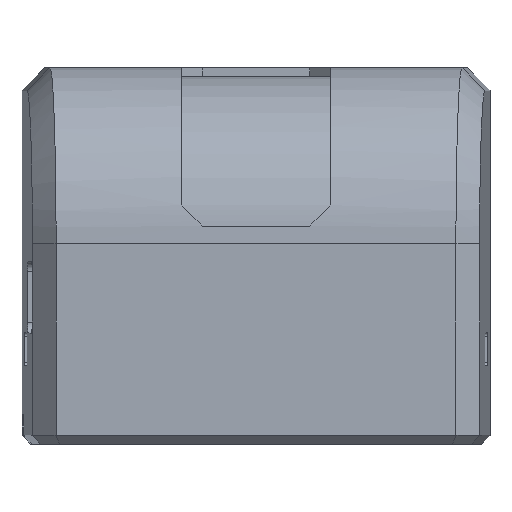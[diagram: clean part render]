
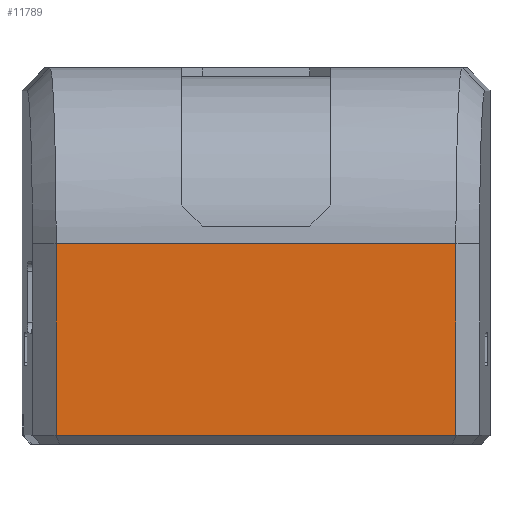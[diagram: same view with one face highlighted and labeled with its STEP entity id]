
A CAD part, front view. The second image highlights one B-rep face of the part: STEP entity #11789.
In plain terms, the highlighted planar face has unit normal (0, -1, 0).
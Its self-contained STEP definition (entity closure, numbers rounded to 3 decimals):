
#1239 = B_SPLINE_SURFACE_WITH_KNOTS('',1,1,(
    (#1240,#1241)
    ,(#1242,#1243
    )),.UNSPECIFIED.,.F.,.F.,.F.,(2,2),(2,2),(0.,22.729),(0.,1.),
  .PIECEWISE_BEZIER_KNOTS.);
#1240 = CARTESIAN_POINT('',(11.158,-29.29,7.49));
#1241 = CARTESIAN_POINT('',(11.364,-29.8,8.));
#1242 = CARTESIAN_POINT('',(-11.158,-29.29,7.49));
#1243 = CARTESIAN_POINT('',(-11.364,-29.8,8.));
#3737 = CYLINDRICAL_SURFACE('',#3738,10.);
#3738 = AXIS2_PLACEMENT_3D('',#3739,#3740,#3741);
#3739 = CARTESIAN_POINT('',(200.,-19.8,18.9));
#3740 = DIRECTION('',(1.,0.,-0.));
#3741 = DIRECTION('',(0.,-1.,0.));
#4604 = VERTEX_POINT('',#4605);
#4605 = CARTESIAN_POINT('',(11.364,-29.8,8.));
#4627 = VERTEX_POINT('',#4628);
#4628 = CARTESIAN_POINT('',(-11.364,-29.8,8.));
#4648 = EDGE_CURVE('',#4604,#4627,#4649,.T.);
#4649 = SURFACE_CURVE('',#4650,(#4654,#4661),.PCURVE_S1.);
#4650 = LINE('',#4651,#4652);
#4651 = CARTESIAN_POINT('',(11.364,-29.8,8.));
#4652 = VECTOR('',#4653,1.);
#4653 = DIRECTION('',(-1.,0.,0.));
#4654 = PCURVE('',#1239,#4655);
#4655 = DEFINITIONAL_REPRESENTATION('',(#4656),#4660);
#4656 = LINE('',#4657,#4658);
#4657 = CARTESIAN_POINT('',(0.,1.));
#4658 = VECTOR('',#4659,1.);
#4659 = DIRECTION('',(1.,0.));
#4660 = ( GEOMETRIC_REPRESENTATION_CONTEXT(2) 
PARAMETRIC_REPRESENTATION_CONTEXT() REPRESENTATION_CONTEXT('2D SPACE',''
  ) );
#4661 = PCURVE('',#4662,#4667);
#4662 = PLANE('',#4663);
#4663 = AXIS2_PLACEMENT_3D('',#4664,#4665,#4666);
#4664 = CARTESIAN_POINT('',(-12.664,-29.8,7.5));
#4665 = DIRECTION('',(0.,1.,0.));
#4666 = DIRECTION('',(1.,0.,0.));
#4667 = DEFINITIONAL_REPRESENTATION('',(#4668),#4672);
#4668 = LINE('',#4669,#4670);
#4669 = CARTESIAN_POINT('',(24.029,-0.5));
#4670 = VECTOR('',#4671,1.);
#4671 = DIRECTION('',(-1.,0.));
#4672 = ( GEOMETRIC_REPRESENTATION_CONTEXT(2) 
PARAMETRIC_REPRESENTATION_CONTEXT() REPRESENTATION_CONTEXT('2D SPACE',''
  ) );
#4715 = PLANE('',#4716);
#4716 = AXIS2_PLACEMENT_3D('',#4717,#4718,#4719);
#4717 = CARTESIAN_POINT('',(-12.71,-28.501,6.5));
#4718 = DIRECTION('',(0.695,0.719,-0.));
#4719 = DIRECTION('',(0.719,-0.695,0.));
#7835 = PLANE('',#7836);
#7836 = AXIS2_PLACEMENT_3D('',#7837,#7838,#7839);
#7837 = CARTESIAN_POINT('',(12.71,-28.501,6.5));
#7838 = DIRECTION('',(0.695,-0.719,0.));
#7839 = DIRECTION('',(-0.719,-0.695,0.));
#10251 = VERTEX_POINT('',#10252);
#10252 = CARTESIAN_POINT('',(-11.364,-29.8,18.9));
#10354 = VERTEX_POINT('',#10355);
#10355 = CARTESIAN_POINT('',(11.364,-29.8,18.9));
#10433 = EDGE_CURVE('',#10354,#10251,#10434,.T.);
#10434 = SURFACE_CURVE('',#10435,(#10439,#10446),.PCURVE_S1.);
#10435 = LINE('',#10436,#10437);
#10436 = CARTESIAN_POINT('',(200.,-29.8,18.9));
#10437 = VECTOR('',#10438,1.);
#10438 = DIRECTION('',(-1.,0.,0.));
#10439 = PCURVE('',#3737,#10440);
#10440 = DEFINITIONAL_REPRESENTATION('',(#10441),#10445);
#10441 = LINE('',#10442,#10443);
#10442 = CARTESIAN_POINT('',(-0.,0.));
#10443 = VECTOR('',#10444,1.);
#10444 = DIRECTION('',(-0.,-1.));
#10445 = ( GEOMETRIC_REPRESENTATION_CONTEXT(2) 
PARAMETRIC_REPRESENTATION_CONTEXT() REPRESENTATION_CONTEXT('2D SPACE',''
  ) );
#10446 = PCURVE('',#4662,#10447);
#10447 = DEFINITIONAL_REPRESENTATION('',(#10448),#10452);
#10448 = LINE('',#10449,#10450);
#10449 = CARTESIAN_POINT('',(212.664,-11.4));
#10450 = VECTOR('',#10451,1.);
#10451 = DIRECTION('',(-1.,0.));
#10452 = ( GEOMETRIC_REPRESENTATION_CONTEXT(2) 
PARAMETRIC_REPRESENTATION_CONTEXT() REPRESENTATION_CONTEXT('2D SPACE',''
  ) );
#11789 = ADVANCED_FACE('',(#11790),#4662,.F.);
#11790 = FACE_BOUND('',#11791,.F.);
#11791 = EDGE_LOOP('',(#11792,#11793,#11811,#11812));
#11792 = ORIENTED_EDGE('',*,*,#4648,.T.);
#11793 = ORIENTED_EDGE('',*,*,#11794,.F.);
#11794 = EDGE_CURVE('',#10251,#4627,#11795,.T.);
#11795 = SURFACE_CURVE('',#11796,(#11799,#11805),.PCURVE_S1.);
#11796 = B_SPLINE_CURVE_WITH_KNOTS('',1,(#11797,#11798),.UNSPECIFIED.,
  .F.,.F.,(2,2),(0.,1.),.PIECEWISE_BEZIER_KNOTS.);
#11797 = CARTESIAN_POINT('',(-11.364,-29.8,18.9));
#11798 = CARTESIAN_POINT('',(-11.364,-29.8,6.5));
#11799 = PCURVE('',#4662,#11800);
#11800 = DEFINITIONAL_REPRESENTATION('',(#11801),#11804);
#11801 = B_SPLINE_CURVE_WITH_KNOTS('',1,(#11802,#11803),.UNSPECIFIED.,
  .F.,.F.,(2,2),(0.,1.),.PIECEWISE_BEZIER_KNOTS.);
#11802 = CARTESIAN_POINT('',(1.3,-11.4));
#11803 = CARTESIAN_POINT('',(1.3,1.));
#11804 = ( GEOMETRIC_REPRESENTATION_CONTEXT(2) 
PARAMETRIC_REPRESENTATION_CONTEXT() REPRESENTATION_CONTEXT('2D SPACE',''
  ) );
#11805 = PCURVE('',#4715,#11806);
#11806 = DEFINITIONAL_REPRESENTATION('',(#11807),#11810);
#11807 = B_SPLINE_CURVE_WITH_KNOTS('',1,(#11808,#11809),.UNSPECIFIED.,
  .F.,.F.,(2,2),(0.,1.),.PIECEWISE_BEZIER_KNOTS.);
#11808 = CARTESIAN_POINT('',(1.87,-12.4));
#11809 = CARTESIAN_POINT('',(1.87,0.));
#11810 = ( GEOMETRIC_REPRESENTATION_CONTEXT(2) 
PARAMETRIC_REPRESENTATION_CONTEXT() REPRESENTATION_CONTEXT('2D SPACE',''
  ) );
#11811 = ORIENTED_EDGE('',*,*,#10433,.F.);
#11812 = ORIENTED_EDGE('',*,*,#11813,.T.);
#11813 = EDGE_CURVE('',#10354,#4604,#11814,.T.);
#11814 = SURFACE_CURVE('',#11815,(#11818,#11824),.PCURVE_S1.);
#11815 = B_SPLINE_CURVE_WITH_KNOTS('',1,(#11816,#11817),.UNSPECIFIED.,
  .F.,.F.,(2,2),(0.,1.),.PIECEWISE_BEZIER_KNOTS.);
#11816 = CARTESIAN_POINT('',(11.364,-29.8,18.9));
#11817 = CARTESIAN_POINT('',(11.364,-29.8,6.5));
#11818 = PCURVE('',#4662,#11819);
#11819 = DEFINITIONAL_REPRESENTATION('',(#11820),#11823);
#11820 = B_SPLINE_CURVE_WITH_KNOTS('',1,(#11821,#11822),.UNSPECIFIED.,
  .F.,.F.,(2,2),(0.,1.),.PIECEWISE_BEZIER_KNOTS.);
#11821 = CARTESIAN_POINT('',(24.029,-11.4));
#11822 = CARTESIAN_POINT('',(24.029,1.));
#11823 = ( GEOMETRIC_REPRESENTATION_CONTEXT(2) 
PARAMETRIC_REPRESENTATION_CONTEXT() REPRESENTATION_CONTEXT('2D SPACE',''
  ) );
#11824 = PCURVE('',#7835,#11825);
#11825 = DEFINITIONAL_REPRESENTATION('',(#11826),#11829);
#11826 = B_SPLINE_CURVE_WITH_KNOTS('',1,(#11827,#11828),.UNSPECIFIED.,
  .F.,.F.,(2,2),(0.,1.),.PIECEWISE_BEZIER_KNOTS.);
#11827 = CARTESIAN_POINT('',(1.87,-12.4));
#11828 = CARTESIAN_POINT('',(1.87,0.));
#11829 = ( GEOMETRIC_REPRESENTATION_CONTEXT(2) 
PARAMETRIC_REPRESENTATION_CONTEXT() REPRESENTATION_CONTEXT('2D SPACE',''
  ) );
